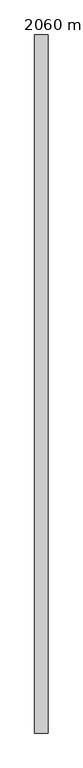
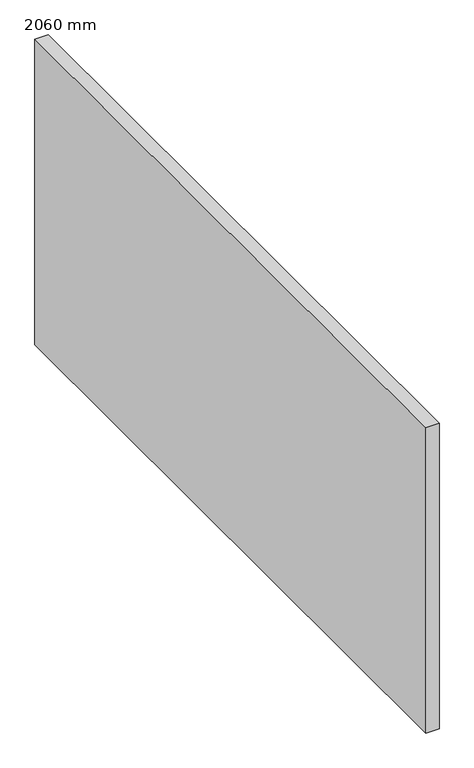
"""IFC4 building model written with IfcOpenShell, lengths in millimetres: furniture geometry, MATERIA-Monolite-Endpiece_Coupe : 2060 mm."""

from ifc_helpers import new_model, si_unit, frame, origin, place, context, project, spatial, polyline, outline, extrude, source, transform, mapped, element, save


def furniture_2060_mm_46935509(model_context):
    return source(origin(), model_context, "Body", "SweptSolid", [
        extrude(outline(polyline([(0.0, 0.0), (-40.0, 0.0), (-40.0, 2060.0), (0.0, 2060.0), (0.0, 0.0)])), frame((0.0, 0.0, 248.0), z_axis=(0.0, 0.0, 1.0), x_axis=(1.0, 0.0, 0.0)), (0.0, 0.0, 1.0), 982.0),
    ])


if __name__ == "__main__":
    model = new_model("IFC4")
    model_context = context("Model", 3, world=origin())
    ifc_project = project(units=[si_unit("LENGTHUNIT", "METRE", prefix="MILLI")], contexts=[model_context])
    site = spatial("IfcSite", under=ifc_project)
    building = spatial("IfcBuilding", under=site)
    placement = place(None, origin())
    furniture_2060_mm_shape = furniture_2060_mm_46935509(model_context)
    element("IfcFurniture", 1, ObjectType="MATERIA-Monolite-Endpiece_Coupe : 2060 mm", at=placement, inside=building, context=model_context, shape_type="MappedRepresentation", body=[
        mapped(furniture_2060_mm_shape, transform((0.0, 0.0, 0.0), x_axis=(1.0, 0.0, 0.0), y_axis=(0.0, 1.0, 0.0), z_axis=(0.0, 0.0, 1.0))),
    ])
    save(model, "model.ifc")
